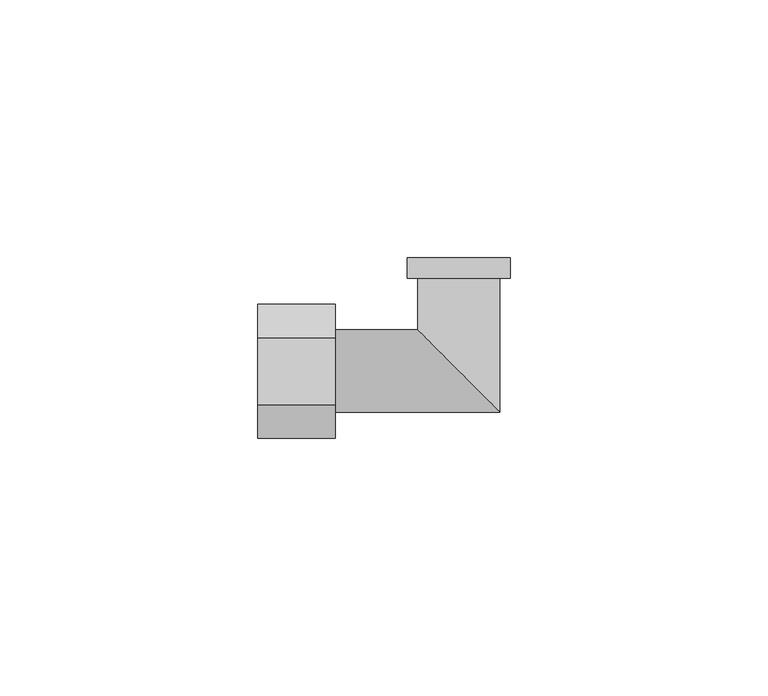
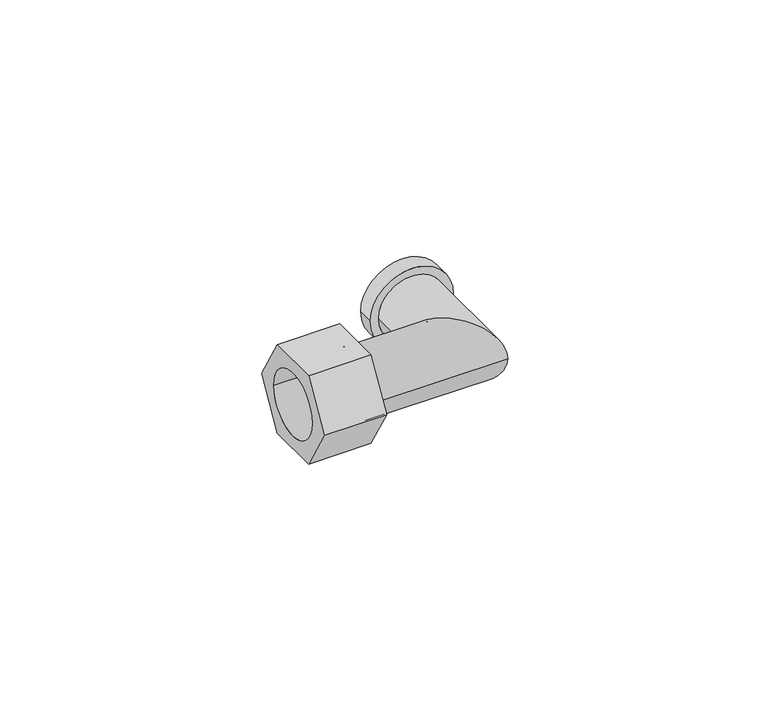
"""IFC4 building model written with IfcOpenShell, lengths in millimetres: pipe fitting geometry, БИР ПЕКС_КМП_Угольник_Резьба_Внутренняя : Угольник с внутренней резьбой_КМП."""

from ifc_helpers import new_model, si_unit, point, frame, origin, origin_2d, place, context, project, spatial, polyline, circle_curve, ellipse_curve, trimmed, segment, composite_curve, outline, extrude, source, transform, mapped, element, save
from ifc_brep_helpers import plane_surface, cylinder_surface, revolved_surface, advanced_brep


def pipe_fitting_8d315068(model_context):
    return source(origin(), model_context, "Body", "SolidModel", [
        extrude(outline(polyline([(-6.5, -11.2583302), (-13.0, 0.0), (-6.5, 11.2583302), (6.5, 11.2583302), (13.0, 0.0), (6.5, -11.2583302), (-6.5, -11.2583302)]), holes=[composite_curve([segment(trimmed(circle_curve(origin_2d(), 8.0), [point((-8.0, 0.0))], [point((8.0, 0.0))], True, "CARTESIAN"), True, "CONTINUOUS"), segment(trimmed(circle_curve(origin_2d(), 8.0), [point((8.0, 0.0))], [point((-8.0, 0.0))], True, "CARTESIAN"), True, "CONTINUOUS")], self_intersect=False)]), frame((-39.0, 0.0, 0.0), z_axis=(1.0, 0.0, 0.0), x_axis=(0.0, 1.0, 0.0)), (0.0, 0.0, 1.0), 15.0),
        advanced_brep(
        [(-24.0, -8.0, 0.0), (-24.0, 8.0, 0.0), (-24.0, -7.5, 0.0), (-24.0, 7.5, 0.0), (8.0, -8.0, 0.0), (-8.0, 8.0, 0.0), (-10.0, 22.0, 0.0), (10.0, 22.0, 0.0), (7.5, 22.0, 0.0), (-7.5, 22.0, 0.0), (8.0, 18.0, 0.0), (-8.0, 18.0, 0.0), (-10.0, 18.0, 0.0), (10.0, 18.0, 0.0), (7.5, -7.5, 0.0), (-7.5, 7.5, 0.0), (-7.5, 18.0, 0.0), (7.5, 18.0, 0.0)],
        [
            (0, 1, circle_curve(frame((-24.0, 0.0, 0.0), z_axis=(-1.0, 0.0, 0.0), x_axis=(0.0, 1.0, 0.0)), 8.0)),
            (1, 0, circle_curve(frame((-24.0, 0.0, 0.0), z_axis=(-1.0, 0.0, 0.0), x_axis=(0.0, 1.0, 0.0)), 8.0)),
            (2, 3, circle_curve(frame((-24.0, 0.0, 0.0), z_axis=(1.0, 0.0, 0.0), x_axis=(0.0, 1.0, 0.0)), 7.5)),
            (3, 2, circle_curve(frame((-24.0, 0.0, 0.0), z_axis=(1.0, 0.0, 0.0), x_axis=(0.0, 1.0, 0.0)), 7.5)),
            (0, 4),
            (4, 5, ellipse_curve(frame((0.0, 0.0, 0.0), z_axis=(-0.7071067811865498, -0.7071067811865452, 0.0), x_axis=(-0.7071067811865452, 0.7071067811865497, 0.0)), 11.3137085, 8.0)),
            (5, 1),
            (5, 4, ellipse_curve(frame((0.0, 0.0, 0.0), z_axis=(-0.7071067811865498, -0.7071067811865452, 0.0), x_axis=(-0.7071067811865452, 0.7071067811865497, 0.0)), 11.3137085, 8.0)),
            (6, 7, circle_curve(frame((0.0, 22.0, 0.0), z_axis=(0.0, 1.0, 0.0), x_axis=(1.0, 0.0, 0.0)), 10.0)),
            (7, 6, circle_curve(frame((0.0, 22.0, 0.0), z_axis=(0.0, 1.0, 0.0), x_axis=(1.0, 0.0, 0.0)), 10.0)),
            (8, 9, circle_curve(frame((0.0, 22.0, 0.0), z_axis=(0.0, -1.0, 0.0), x_axis=(-1.0, 0.0, 0.0)), 7.5)),
            (9, 8, circle_curve(frame((0.0, 22.0, 0.0), z_axis=(0.0, -1.0, 0.0), x_axis=(-1.0, 0.0, 0.0)), 7.5)),
            (4, 10),
            (10, 11, circle_curve(frame((0.0, 18.0, 0.0), z_axis=(0.0, -1.0, 0.0), x_axis=(-1.0, 0.0, 0.0)), 8.0)),
            (11, 5),
            (11, 10, circle_curve(frame((0.0, 18.0, 0.0), z_axis=(0.0, -1.0, 0.0), x_axis=(-1.0, 0.0, 0.0)), 8.0)),
            (12, 13, circle_curve(frame((0.0, 18.0, 0.0), z_axis=(0.0, -1.0, 0.0), x_axis=(1.0, 0.0, 0.0)), 10.0)),
            (13, 12, circle_curve(frame((0.0, 18.0, 0.0), z_axis=(0.0, -1.0, 0.0), x_axis=(1.0, 0.0, 0.0)), 10.0)),
            (12, 6),
            (7, 13),
            (2, 14),
            (14, 15, ellipse_curve(frame((0.0, 0.0, 0.0), z_axis=(0.7071067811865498, 0.7071067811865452, 0.0), x_axis=(0.7071067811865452, -0.7071067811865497, 0.0)), 10.6066017, 7.5)),
            (15, 3),
            (15, 14, ellipse_curve(frame((0.0, 0.0, 0.0), z_axis=(0.7071067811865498, 0.7071067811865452, 0.0), x_axis=(0.7071067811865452, -0.7071067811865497, 0.0)), 10.6066017, 7.5)),
            (9, 16),
            (16, 15),
            (14, 17),
            (17, 8),
        ],
        [
            plane_surface(frame((-24.0, 0.0, 0.0), z_axis=(-1.0, 0.0, 0.0), x_axis=(0.0, 0.0, 1.0))),
            cylinder_surface(frame((-24.0, 0.0, 0.0), z_axis=(-1.0, 0.0, 0.0), x_axis=(0.0, 1.0, 0.0)), 8.0),
            plane_surface(frame((0.0, 22.0, 0.0), z_axis=(0.0, 1.0, 0.0), x_axis=(0.0, 0.0, 1.0))),
            cylinder_surface(frame((0.0, 0.0, 0.0), z_axis=(0.0, -1.0, 0.0), x_axis=(-1.0, 0.0, 0.0)), 8.0),
            plane_surface(frame((10.0, 18.0, 0.0), z_axis=(0.0, -1.0, 0.0), x_axis=(0.0, 0.0, 1.0))),
            cylinder_surface(frame((0.0, 22.0, 0.0), z_axis=(0.0, -1.0, 0.0), x_axis=(1.0, 0.0, 0.0)), 10.0),
            revolved_surface(polyline([(7.5, 7.5, 0.0), (-24.0, 7.5, 0.0)]), (-24.0, 0.0, 0.0), (1.0, 0.0, 0.0)),
            revolved_surface(polyline([(-7.5, 22.0, 0.0), (-7.5, -7.5, 0.0)]), (0.0, 0.0, 0.0), (0.0, 1.0, 0.0)),
        ],
        [
            (0, [[1, 2], [3, 4]]),
            (1, [[-1, 5, 6, 7]]),
            (1, [[-2, -7, 8, -5]]),
            (2, [[9, 10], [11, 12]]),
            (3, [[-6, 13, 14, 15]]),
            (3, [[-8, -15, 16, -13]]),
            (4, [[17, 18], [-14, -16]]),
            (5, [[-17, 19, -10, 20]]),
            (5, [[-18, -20, -9, -19]]),
            (6, [[-3, 21, 22, 23]]),
            (6, [[-4, -23, 24, -21]]),
            (7, [[-12, 25, 26, -22, 27, 28]]),
            (7, [[-11, -28, -27, -24, -26, -25]]),
        ],
    ),
    ])


if __name__ == "__main__":
    model = new_model("IFC4")
    model_context = context("Model", 3, world=origin())
    ifc_project = project(units=[si_unit("LENGTHUNIT", "METRE", prefix="MILLI")], contexts=[model_context])
    site = spatial("IfcSite", under=ifc_project)
    building = spatial("IfcBuilding", under=site)
    placement = place(None, origin())
    pipe_fitting_shape = pipe_fitting_8d315068(model_context)
    element("IfcPipeFitting", 1, ObjectType="БИР ПЕКС_КМП_Угольник_Резьба_Внутренняя : Угольник с внутренней резьбой_КМП", at=placement, inside=building, context=model_context, shape_type="MappedRepresentation", body=[
        mapped(pipe_fitting_shape, transform((0.0, 0.0, 0.0), x_axis=(1.0, 0.0, 0.0), y_axis=(0.0, 1.0, 0.0), z_axis=(0.0, 0.0, 1.0))),
    ])
    save(model, "model.ifc")
